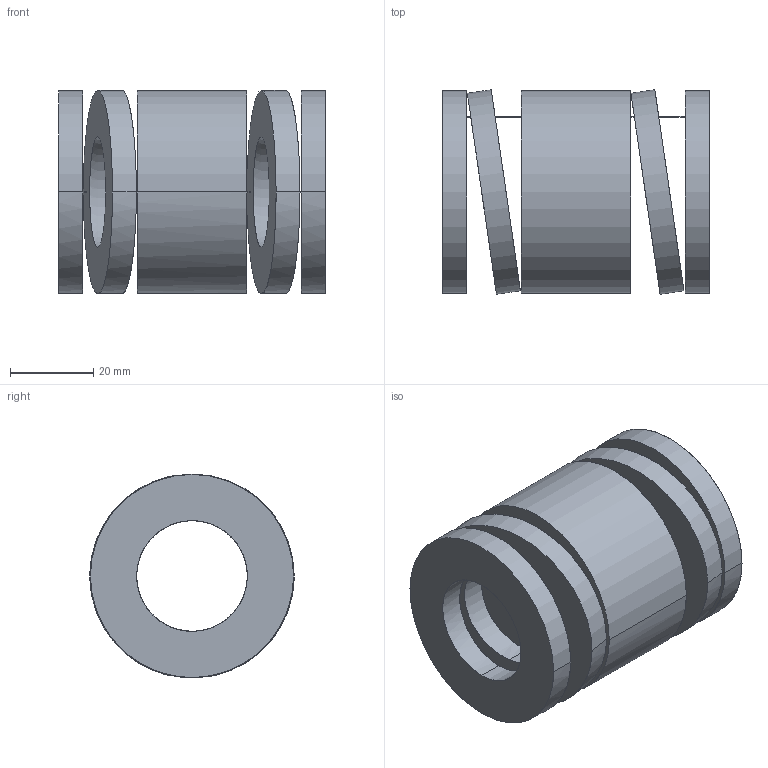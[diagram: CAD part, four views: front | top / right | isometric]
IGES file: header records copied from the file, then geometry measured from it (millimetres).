
Start section: START RECORD GO HERE.
Global section: file name: 392-B50-064.igs; native system: DASSAULT SYSTEMES CATIA V5 R20 - www.3ds.com; preprocessor: CATIA Version 5 Release 20 ; author: Utente; organization: NB04-ASUS; date: 20210813.134042; units: millimetre
Bounding box: 64 x 49.13 x 48.8 mm (x, y, z)
Surface area: 24844 mm2 (no closed solid volume)
Topology: 0 solids, 0 shells, 38 faces, 184 edges, 184 vertices
Faces by surface type: revolution 28, plane 10
